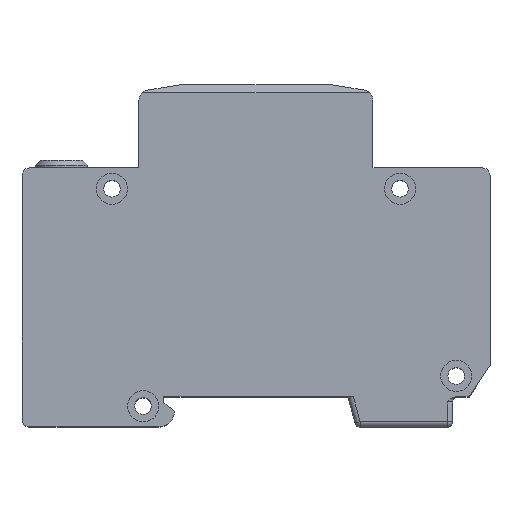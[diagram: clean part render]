
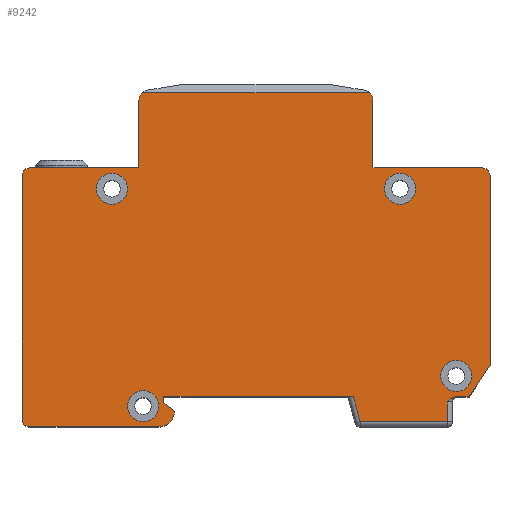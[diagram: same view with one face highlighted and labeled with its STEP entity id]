
A CAD part, top view. The second image highlights one B-rep face of the part: STEP entity #9242.
In plain terms, the highlighted planar face has unit normal (0, 0, 1).
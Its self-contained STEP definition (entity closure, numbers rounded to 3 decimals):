
#79=B_SPLINE_CURVE_WITH_KNOTS('',3,(#15100,#15101,#15102,#15103,#15104,
#15105),.UNSPECIFIED.,.F.,.F.,(4,2,4),(0.506,0.582,
0.7),.UNSPECIFIED.);
#128=FACE_BOUND('',#1403,.T.);
#129=FACE_BOUND('',#1404,.T.);
#130=FACE_BOUND('',#1405,.T.);
#131=FACE_BOUND('',#1406,.T.);
#384=CIRCLE('',#9883,1.5);
#386=CIRCLE('',#9914,1.5);
#388=CIRCLE('',#9920,3.);
#398=CIRCLE('',#9978,1.5);
#417=CIRCLE('',#10014,2.);
#418=CIRCLE('',#10015,2.);
#419=CIRCLE('',#10016,3.);
#420=CIRCLE('',#10017,3.);
#421=CIRCLE('',#10018,3.);
#422=CIRCLE('',#10019,3.);
#887=FACE_OUTER_BOUND('',#1402,.T.);
#1402=EDGE_LOOP('',(#8006,#8007,#8008,#8009,#8010,#8011,#8012,#8013,#8014,
#8015,#8016,#8017,#8018,#8019,#8020,#8021,#8022,#8023,#8024,#8025,#8026,
#8027,#8028));
#1403=EDGE_LOOP('',(#8029));
#1404=EDGE_LOOP('',(#8030));
#1405=EDGE_LOOP('',(#8031));
#1406=EDGE_LOOP('',(#8032));
#2050=LINE('',#14089,#3108);
#2366=LINE('',#14778,#3424);
#2384=LINE('',#14815,#3442);
#2390=LINE('',#14831,#3448);
#2394=LINE('',#14839,#3452);
#2398=LINE('',#14851,#3456);
#2420=LINE('',#14910,#3478);
#2424=LINE('',#14919,#3482);
#2476=LINE('',#15019,#3534);
#2482=LINE('',#15037,#3540);
#2487=LINE('',#15086,#3545);
#2488=LINE('',#15090,#3546);
#2489=LINE('',#15093,#3547);
#2490=LINE('',#15095,#3548);
#2491=LINE('',#15097,#3549);
#2492=LINE('',#15099,#3550);
#3108=VECTOR('',#11437,10.);
#3424=VECTOR('',#11989,10.);
#3442=VECTOR('',#12029,10.);
#3448=VECTOR('',#12047,10.);
#3452=VECTOR('',#12055,10.);
#3456=VECTOR('',#12067,10.);
#3478=VECTOR('',#12131,10.);
#3482=VECTOR('',#12141,10.);
#3534=VECTOR('',#12237,10.);
#3540=VECTOR('',#12259,10.);
#3545=VECTOR('',#12326,10.);
#3546=VECTOR('',#12329,10.);
#3547=VECTOR('',#12332,10.);
#3548=VECTOR('',#12333,10.);
#3549=VECTOR('',#12334,10.);
#3550=VECTOR('',#12335,10.);
#4048=VERTEX_POINT('',#14086);
#4049=VERTEX_POINT('',#14088);
#4274=VERTEX_POINT('',#14668);
#4304=VERTEX_POINT('',#14776);
#4310=VERTEX_POINT('',#14805);
#4312=VERTEX_POINT('',#14813);
#4314=VERTEX_POINT('',#14821);
#4316=VERTEX_POINT('',#14829);
#4318=VERTEX_POINT('',#14837);
#4322=VERTEX_POINT('',#14849);
#4337=VERTEX_POINT('',#14907);
#4338=VERTEX_POINT('',#14909);
#4340=VERTEX_POINT('',#14917);
#4366=VERTEX_POINT('',#15017);
#4368=VERTEX_POINT('',#15025);
#4370=VERTEX_POINT('',#15035);
#4383=VERTEX_POINT('',#15085);
#4384=VERTEX_POINT('',#15087);
#4385=VERTEX_POINT('',#15089);
#4386=VERTEX_POINT('',#15091);
#4387=VERTEX_POINT('',#15094);
#4388=VERTEX_POINT('',#15096);
#4389=VERTEX_POINT('',#15098);
#4390=VERTEX_POINT('',#15106);
#4391=VERTEX_POINT('',#15108);
#4392=VERTEX_POINT('',#15110);
#4393=VERTEX_POINT('',#15112);
#5139=EDGE_CURVE('',#4049,#4048,#2050,.T.);
#5429=EDGE_CURVE('',#4274,#4048,#384,.T.);
#5485=EDGE_CURVE('',#4274,#4304,#2366,.T.);
#5501=EDGE_CURVE('',#4310,#4304,#386,.T.);
#5505=EDGE_CURVE('',#4310,#4312,#2384,.T.);
#5509=EDGE_CURVE('',#4312,#4314,#388,.T.);
#5513=EDGE_CURVE('',#4314,#4316,#2390,.T.);
#5517=EDGE_CURVE('',#4316,#4318,#2394,.T.);
#5523=EDGE_CURVE('',#4318,#4322,#2398,.T.);
#5552=EDGE_CURVE('',#4337,#4338,#2420,.T.);
#5557=EDGE_CURVE('',#4337,#4340,#2424,.T.);
#5609=EDGE_CURVE('',#4340,#4366,#2476,.T.);
#5613=EDGE_CURVE('',#4368,#4366,#398,.T.);
#5619=EDGE_CURVE('',#4368,#4370,#2482,.T.);
#5640=EDGE_CURVE('',#4370,#4383,#2487,.T.);
#5641=EDGE_CURVE('',#4384,#4383,#417,.T.);
#5642=EDGE_CURVE('',#4385,#4384,#2488,.T.);
#5643=EDGE_CURVE('',#4386,#4385,#418,.T.);
#5644=EDGE_CURVE('',#4386,#4049,#2489,.T.);
#5645=EDGE_CURVE('',#4387,#4322,#2490,.T.);
#5646=EDGE_CURVE('',#4388,#4387,#2491,.T.);
#5647=EDGE_CURVE('',#4389,#4388,#2492,.T.);
#5648=EDGE_CURVE('',#4338,#4389,#79,.T.);
#5649=EDGE_CURVE('',#4390,#4390,#419,.T.);
#5650=EDGE_CURVE('',#4391,#4391,#420,.T.);
#5651=EDGE_CURVE('',#4392,#4392,#421,.T.);
#5652=EDGE_CURVE('',#4393,#4393,#422,.T.);
#8006=ORIENTED_EDGE('',*,*,#5613,.F.);
#8007=ORIENTED_EDGE('',*,*,#5619,.T.);
#8008=ORIENTED_EDGE('',*,*,#5640,.T.);
#8009=ORIENTED_EDGE('',*,*,#5641,.F.);
#8010=ORIENTED_EDGE('',*,*,#5642,.F.);
#8011=ORIENTED_EDGE('',*,*,#5643,.F.);
#8012=ORIENTED_EDGE('',*,*,#5644,.T.);
#8013=ORIENTED_EDGE('',*,*,#5139,.T.);
#8014=ORIENTED_EDGE('',*,*,#5429,.F.);
#8015=ORIENTED_EDGE('',*,*,#5485,.T.);
#8016=ORIENTED_EDGE('',*,*,#5501,.F.);
#8017=ORIENTED_EDGE('',*,*,#5505,.T.);
#8018=ORIENTED_EDGE('',*,*,#5509,.T.);
#8019=ORIENTED_EDGE('',*,*,#5513,.T.);
#8020=ORIENTED_EDGE('',*,*,#5517,.T.);
#8021=ORIENTED_EDGE('',*,*,#5523,.T.);
#8022=ORIENTED_EDGE('',*,*,#5645,.F.);
#8023=ORIENTED_EDGE('',*,*,#5646,.F.);
#8024=ORIENTED_EDGE('',*,*,#5647,.F.);
#8025=ORIENTED_EDGE('',*,*,#5648,.F.);
#8026=ORIENTED_EDGE('',*,*,#5552,.F.);
#8027=ORIENTED_EDGE('',*,*,#5557,.T.);
#8028=ORIENTED_EDGE('',*,*,#5609,.T.);
#8029=ORIENTED_EDGE('',*,*,#5649,.T.);
#8030=ORIENTED_EDGE('',*,*,#5650,.T.);
#8031=ORIENTED_EDGE('',*,*,#5651,.T.);
#8032=ORIENTED_EDGE('',*,*,#5652,.T.);
#8791=PLANE('',#10013);
#9242=ADVANCED_FACE('',(#887,#128,#129,#130,#131),#8791,.T.);
#9883=AXIS2_PLACEMENT_3D('',#14670,#11888,#11889);
#9914=AXIS2_PLACEMENT_3D('',#14807,#12020,#12021);
#9920=AXIS2_PLACEMENT_3D('',#14823,#12038,#12039);
#9978=AXIS2_PLACEMENT_3D('',#15027,#12246,#12247);
#10013=AXIS2_PLACEMENT_3D('',#15084,#12324,#12325);
#10014=AXIS2_PLACEMENT_3D('',#15088,#12327,#12328);
#10015=AXIS2_PLACEMENT_3D('',#15092,#12330,#12331);
#10016=AXIS2_PLACEMENT_3D('',#15107,#12336,#12337);
#10017=AXIS2_PLACEMENT_3D('',#15109,#12338,#12339);
#10018=AXIS2_PLACEMENT_3D('',#15111,#12340,#12341);
#10019=AXIS2_PLACEMENT_3D('',#15113,#12342,#12343);
#11437=DIRECTION('',(-1.,0.,0.));
#11888=DIRECTION('center_axis',(0.,0.,-1.));
#11889=DIRECTION('ref_axis',(-0.707,0.707,0.));
#11989=DIRECTION('',(0.,-1.,0.));
#12020=DIRECTION('center_axis',(0.,0.,-1.));
#12021=DIRECTION('ref_axis',(-0.707,-0.707,0.));
#12029=DIRECTION('',(1.,0.,0.));
#12038=DIRECTION('center_axis',(0.,0.,1.));
#12039=DIRECTION('ref_axis',(0.,-1.,0.));
#12047=DIRECTION('',(-0.781,0.625,0.));
#12055=DIRECTION('',(0.,1.,0.));
#12067=DIRECTION('',(1.,0.,0.));
#12131=DIRECTION('',(-1.,0.,0.));
#12141=DIRECTION('',(0.555,0.832,0.));
#12237=DIRECTION('',(0.,1.,0.));
#12246=DIRECTION('center_axis',(0.,0.,-1.));
#12247=DIRECTION('ref_axis',(0.707,0.707,0.));
#12259=DIRECTION('',(-1.,0.,0.));
#12324=DIRECTION('center_axis',(0.,0.,1.));
#12325=DIRECTION('ref_axis',(1.,0.,0.));
#12326=DIRECTION('',(0.,1.,0.));
#12327=DIRECTION('center_axis',(0.,0.,-1.));
#12328=DIRECTION('ref_axis',(0.762,0.648,0.));
#12329=DIRECTION('',(1.,0.,0.));
#12330=DIRECTION('center_axis',(0.,0.,-1.));
#12331=DIRECTION('ref_axis',(-0.762,0.648,0.));
#12332=DIRECTION('',(0.,-1.,0.));
#12333=DIRECTION('',(-0.259,0.966,0.));
#12334=DIRECTION('',(-1.,0.,0.));
#12335=DIRECTION('',(0.,-1.,0.));
#12336=DIRECTION('center_axis',(0.,0.,-1.));
#12337=DIRECTION('ref_axis',(1.,0.,0.));
#12338=DIRECTION('center_axis',(0.,0.,-1.));
#12339=DIRECTION('ref_axis',(1.,0.,0.));
#12340=DIRECTION('center_axis',(0.,0.,-1.));
#12341=DIRECTION('ref_axis',(1.,0.,0.));
#12342=DIRECTION('center_axis',(0.,0.,-1.));
#12343=DIRECTION('ref_axis',(1.,0.,0.));
#14086=CARTESIAN_POINT('',(-43.5,14.,17.5));
#14088=CARTESIAN_POINT('',(-22.5,14.,17.5));
#14089=CARTESIAN_POINT('',(-22.5,14.,17.5));
#14668=CARTESIAN_POINT('',(-45.,12.5,17.5));
#14670=CARTESIAN_POINT('Origin',(-43.5,12.5,17.5));
#14776=CARTESIAN_POINT('',(-45.,-34.3,17.5));
#14778=CARTESIAN_POINT('',(-45.,14.,17.5));
#14805=CARTESIAN_POINT('',(-43.5,-35.8,17.5));
#14807=CARTESIAN_POINT('Origin',(-43.5,-34.3,17.5));
#14813=CARTESIAN_POINT('',(-18.7,-35.8,17.5));
#14815=CARTESIAN_POINT('',(-45.,-35.8,17.5));
#14821=CARTESIAN_POINT('',(-15.7,-32.8,17.5));
#14823=CARTESIAN_POINT('Origin',(-18.7,-32.8,17.5));
#14829=CARTESIAN_POINT('',(-17.7,-31.2,17.5));
#14831=CARTESIAN_POINT('',(-15.7,-32.8,17.5));
#14837=CARTESIAN_POINT('',(-17.7,-30.,17.5));
#14839=CARTESIAN_POINT('',(-17.7,-31.2,17.5));
#14849=CARTESIAN_POINT('',(18.735,-30.,17.5));
#14851=CARTESIAN_POINT('',(-17.7,-30.,17.5));
#14907=CARTESIAN_POINT('',(41.,-30.,17.5));
#14909=CARTESIAN_POINT('',(38.532,-30.,17.5));
#14910=CARTESIAN_POINT('',(18.592,-30.,17.5));
#14917=CARTESIAN_POINT('',(45.,-24.,17.5));
#14919=CARTESIAN_POINT('',(41.,-30.,17.5));
#15017=CARTESIAN_POINT('',(45.,12.5,17.5));
#15019=CARTESIAN_POINT('',(45.,-24.,17.5));
#15025=CARTESIAN_POINT('',(43.5,14.,17.5));
#15027=CARTESIAN_POINT('Origin',(43.5,12.5,17.5));
#15035=CARTESIAN_POINT('',(22.5,14.,17.5));
#15037=CARTESIAN_POINT('',(45.,14.,17.5));
#15084=CARTESIAN_POINT('Origin',(-0.615,-5.122,17.5));
#15085=CARTESIAN_POINT('',(22.5,26.999,17.5));
#15086=CARTESIAN_POINT('',(22.5,14.,17.5));
#15087=CARTESIAN_POINT('',(21.821,28.5,17.5));
#15088=CARTESIAN_POINT('Origin',(20.5,26.999,17.5));
#15089=CARTESIAN_POINT('',(-21.821,28.5,17.5));
#15090=CARTESIAN_POINT('',(10.942,28.5,17.5));
#15091=CARTESIAN_POINT('',(-22.5,26.999,17.5));
#15092=CARTESIAN_POINT('Origin',(-20.5,26.999,17.5));
#15093=CARTESIAN_POINT('',(-22.5,30.,17.5));
#15094=CARTESIAN_POINT('',(20.021,-34.8,17.5));
#15095=CARTESIAN_POINT('',(14.943,-15.846,17.5));
#15096=CARTESIAN_POINT('',(36.8,-34.8,17.5));
#15097=CARTESIAN_POINT('',(9.319,-34.8,17.5));
#15098=CARTESIAN_POINT('',(36.8,-31.,17.5));
#15099=CARTESIAN_POINT('',(36.8,-20.461,17.5));
#15100=CARTESIAN_POINT('Ctrl Pts',(38.532,-30.,17.5));
#15101=CARTESIAN_POINT('Ctrl Pts',(38.277,-30.,17.5));
#15102=CARTESIAN_POINT('Ctrl Pts',(37.985,-30.09,17.5));
#15103=CARTESIAN_POINT('Ctrl Pts',(37.415,-30.396,17.5));
#15104=CARTESIAN_POINT('Ctrl Pts',(37.077,-30.723,17.5));
#15105=CARTESIAN_POINT('Ctrl Pts',(36.8,-31.,17.5));
#15106=CARTESIAN_POINT('',(35.5,-26.,17.5));
#15107=CARTESIAN_POINT('Origin',(38.5,-26.,17.5));
#15108=CARTESIAN_POINT('',(24.7,10.,17.5));
#15109=CARTESIAN_POINT('Origin',(27.7,10.,17.5));
#15110=CARTESIAN_POINT('',(-30.7,10.,17.5));
#15111=CARTESIAN_POINT('Origin',(-27.7,10.,17.5));
#15112=CARTESIAN_POINT('',(-24.7,-31.8,17.5));
#15113=CARTESIAN_POINT('Origin',(-21.7,-31.8,17.5));
